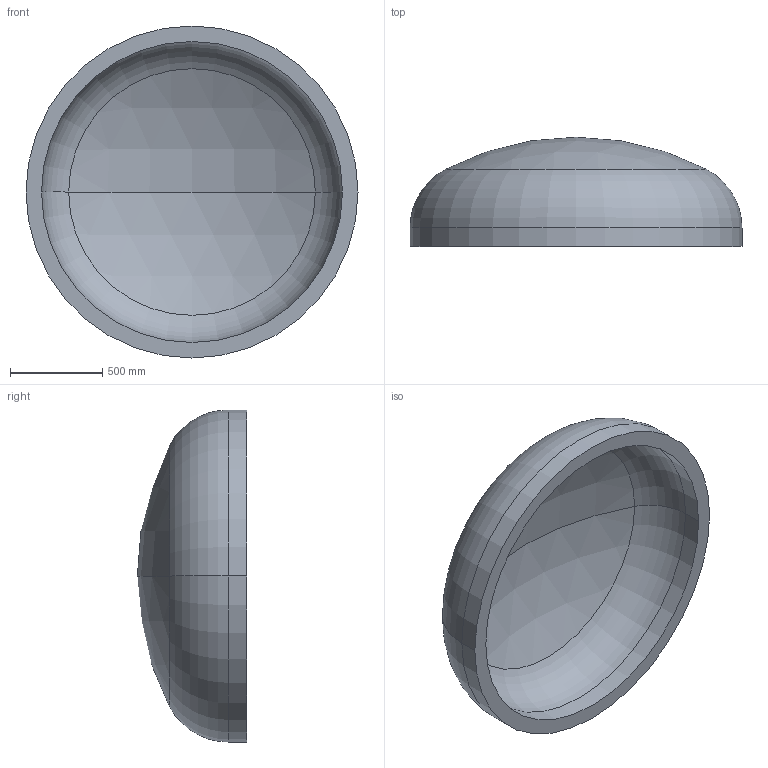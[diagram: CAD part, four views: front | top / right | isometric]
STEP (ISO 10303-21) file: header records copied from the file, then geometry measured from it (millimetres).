
FILE_DESCRIPTION (( 'STEP AP203' ), '1' );
FILE_NAME ('DIN 28013 Korbbogenform_-_Boden DIN 28013 - 1800 x 100 - I - s=84.step', '2016-07-01T12:41:37', ( '' ), ( '' ), 'SwSTEP 2.0', 'SolidWorks 2013', '' );
FILE_SCHEMA (( 'CONFIG_CONTROL_DESIGN' ));
Length unit declared in the file: millimetre
Products named in the file (1): DIN 28013 Korbbogenform_-_Boden DIN 28013 - 1800 x 100 - I - s=84
Bounding box: 1800 x 592.23 x 1800 mm (x, y, z)
Volume: 323601187 mm3; surface area: 8172407.8 mm2
Topology: 1 solids, 1 shells, 13 faces, 24 edges, 14 vertices
Faces by surface type: torus 4, cylinder 4, sphere 4, plane 1
Entity records: 407 total; most frequent: DIRECTION 72, CARTESIAN_POINT 52, ORIENTED_EDGE 48, AXIS2_PLACEMENT_3D 34, EDGE_CURVE 24, CIRCLE 20, VERTEX_POINT 14, EDGE_LOOP 14
